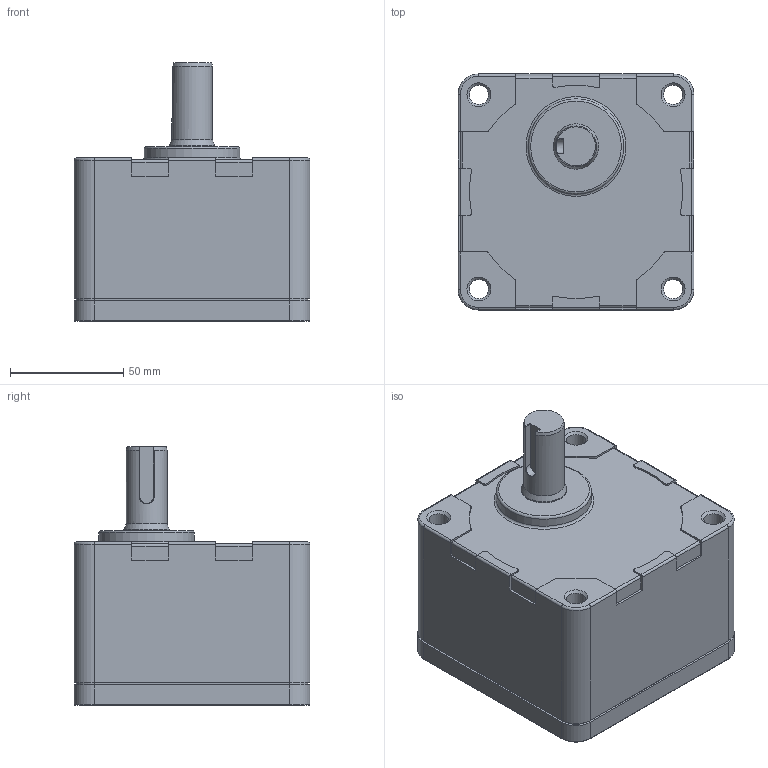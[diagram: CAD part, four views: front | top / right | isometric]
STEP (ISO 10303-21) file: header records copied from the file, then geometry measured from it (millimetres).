
FILE_DESCRIPTION((''),'2;1');
FILE_NAME('\\192.168.2.43\미주향 도면\3D 도면\부품\원유민\S10KV_.stp','2011-07-27T09:12:53',('jy-jung'),(''),'Autodesk Inventor 2011','Autodesk Inventor 2011','');
FILE_SCHEMA(('AUTOMOTIVE_DESIGN { 1 0 10303 214 1 1 1 1 }'));
Length unit declared in the file: millimetre
Products named in the file (1): S10KV_
Bounding box: 104 x 104 x 114 mm (x, y, z)
Volume: 738552 mm3; surface area: 63012 mm2
Topology: 1 solids, 1 shells, 158 faces, 420 edges, 270 vertices
Faces by surface type: cylinder 69, plane 65, cone 11, torus 10, bspline 3
Full cylindrical faces by diameter (mm): 8.5 x4, 13 x1, 18 x1, 20 x1, 42 x1, 94 x1
Entity records: 4976 total; most frequent: CARTESIAN_POINT 993, DIRECTION 856, ORIENTED_EDGE 794, EDGE_CURVE 397, AXIS2_PLACEMENT_3D 315, VERTEX_POINT 268, VECTOR 226, LINE 226
